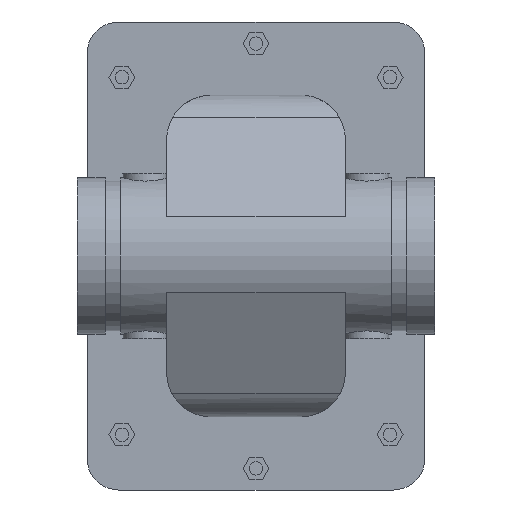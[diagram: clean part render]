
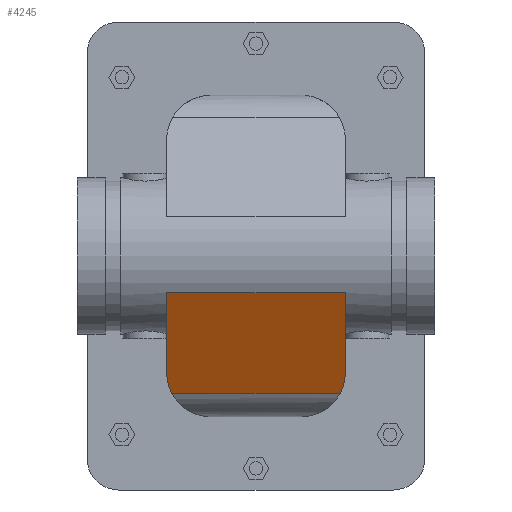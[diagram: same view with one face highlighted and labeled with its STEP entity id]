
A CAD part, front view. The second image highlights one B-rep face of the part: STEP entity #4245.
In plain terms, the highlighted planar face has unit normal (0, -0.882, -0.472).
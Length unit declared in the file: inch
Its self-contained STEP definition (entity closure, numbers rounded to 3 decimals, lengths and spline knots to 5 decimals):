
#51=ELLIPSE('',#4332,1.13428,1.);
#52=ELLIPSE('',#4335,1.13428,1.);
#489=FACE_OUTER_BOUND('',#748,.T.);
#748=EDGE_LOOP('',(#3530,#3531,#3532,#3533,#3534,#3535));
#888=LINE('',#6022,#1310);
#908=LINE('',#6089,#1330);
#911=LINE('',#6096,#1333);
#1165=LINE('',#6942,#1587);
#1310=VECTOR('',#4849,0.3937);
#1330=VECTOR('',#4911,0.3937);
#1333=VECTOR('',#4918,0.3937);
#1587=VECTOR('',#5626,0.3937);
#1703=VERTEX_POINT('',#6019);
#1704=VERTEX_POINT('',#6021);
#1707=VERTEX_POINT('',#6029);
#1708=VERTEX_POINT('',#6033);
#1730=VERTEX_POINT('',#6087);
#1732=VERTEX_POINT('',#6095);
#2110=EDGE_CURVE('',#1703,#1704,#888,.T.);
#2115=EDGE_CURVE('',#1707,#1703,#51,.T.);
#2119=EDGE_CURVE('',#1704,#1708,#52,.T.);
#2144=EDGE_CURVE('',#1730,#1707,#908,.T.);
#2147=EDGE_CURVE('',#1708,#1732,#911,.T.);
#2489=EDGE_CURVE('',#1732,#1730,#1165,.T.);
#3530=ORIENTED_EDGE('',*,*,#2115,.F.);
#3531=ORIENTED_EDGE('',*,*,#2144,.F.);
#3532=ORIENTED_EDGE('',*,*,#2489,.F.);
#3533=ORIENTED_EDGE('',*,*,#2147,.F.);
#3534=ORIENTED_EDGE('',*,*,#2119,.F.);
#3535=ORIENTED_EDGE('',*,*,#2110,.F.);
#3806=PLANE('',#4601);
#4245=ADVANCED_FACE('',(#489),#3806,.T.);
#4332=AXIS2_PLACEMENT_3D('',#6031,#4858,#4859);
#4335=AXIS2_PLACEMENT_3D('',#6039,#4866,#4867);
#4601=AXIS2_PLACEMENT_3D('',#7001,#5689,#5690);
#4849=DIRECTION('',(-1.,0.,0.));
#4858=DIRECTION('center_axis',(0.,0.882,0.472));
#4859=DIRECTION('ref_axis',(0.,0.472,-0.882));
#4866=DIRECTION('center_axis',(0.,0.882,0.472));
#4867=DIRECTION('ref_axis',(0.,0.472,-0.882));
#4911=DIRECTION('',(0.,0.472,-0.882));
#4918=DIRECTION('',(0.,-0.472,0.882));
#5626=DIRECTION('',(1.,0.,0.));
#5689=DIRECTION('center_axis',(0.,-0.882,-0.472));
#5690=DIRECTION('ref_axis',(0.,0.472,-0.882));
#6019=CARTESIAN_POINT('',(1.88161,-0.34041,-3.07197));
#6021=CARTESIAN_POINT('',(-1.88161,-0.34041,-3.07197));
#6022=CARTESIAN_POINT('',(0.,-0.34041,-3.07197));
#6029=CARTESIAN_POINT('',(2.,-0.59309,-2.6));
#6031=CARTESIAN_POINT('Origin',(1.,-0.59309,-2.6));
#6033=CARTESIAN_POINT('',(-2.,-0.59309,-2.6));
#6039=CARTESIAN_POINT('Origin',(-1.,-0.59309,-2.6));
#6087=CARTESIAN_POINT('',(2.,-1.54282,-0.82595));
#6089=CARTESIAN_POINT('',(2.,-0.05774,-3.6));
#6095=CARTESIAN_POINT('',(-2.,-1.54282,-0.82595));
#6096=CARTESIAN_POINT('',(-2.,-0.05774,-3.6));
#6942=CARTESIAN_POINT('',(0.,-1.54282,-0.82595));
#7001=CARTESIAN_POINT('Origin',(0.,-1.54282,-0.82595));
